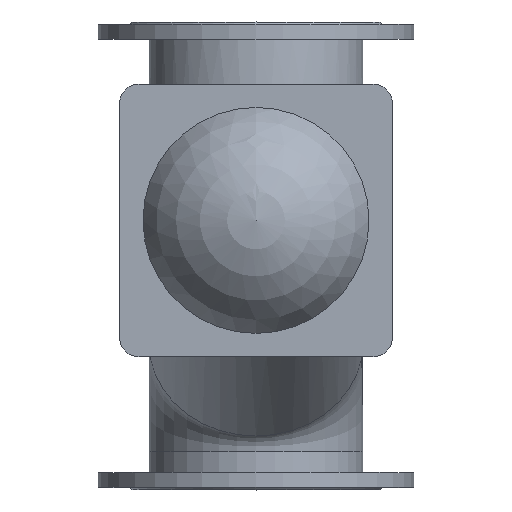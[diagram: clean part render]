
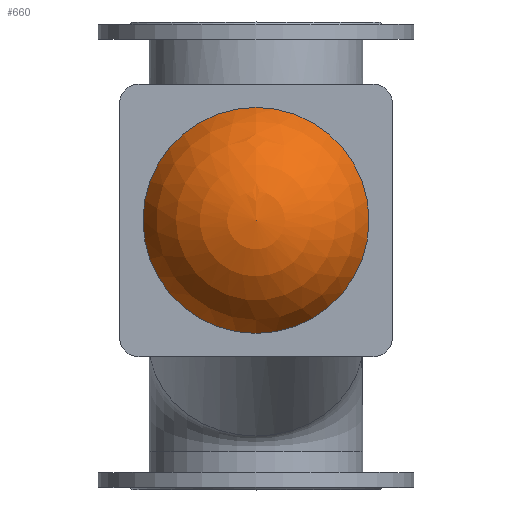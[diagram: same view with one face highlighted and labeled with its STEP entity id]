
A CAD part, top view. The second image highlights one B-rep face of the part: STEP entity #660.
In plain terms, the highlighted spherical face has radius 155.125 mm.
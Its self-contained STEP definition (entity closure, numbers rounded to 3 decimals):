
#660=ADVANCED_FACE('',(#2260),#2262,.T.);
#2260=FACE_OUTER_BOUND('',#2261,.T.);
#2261=EDGE_LOOP('',(#2621));
#2262=SPHERICAL_SURFACE('',#2263,155.125);
#2263=AXIS2_PLACEMENT_3D('',#2264,#2265,#2266);
#2264=CARTESIAN_POINT('',(0.,45.,312.875));
#2265=DIRECTION('',(0.,0.,-1.));
#2266=DIRECTION('',(0.,1.,0.));
#2621=ORIENTED_EDGE('',*,*,#2802,.T.);
#2802=EDGE_CURVE('',#3076,#3076,#3077,.F.);
#3076=VERTEX_POINT('',#3967);
#3077=CIRCLE('',#3968,145.);
#3967=CARTESIAN_POINT('',(0.,190.,368.));
#3968=AXIS2_PLACEMENT_3D('',#3969,#3970,#3971);
#3969=CARTESIAN_POINT('',(0.,45.,368.));
#3970=DIRECTION('',(0.,0.,-1.));
#3971=DIRECTION('',(0.,1.,0.));
